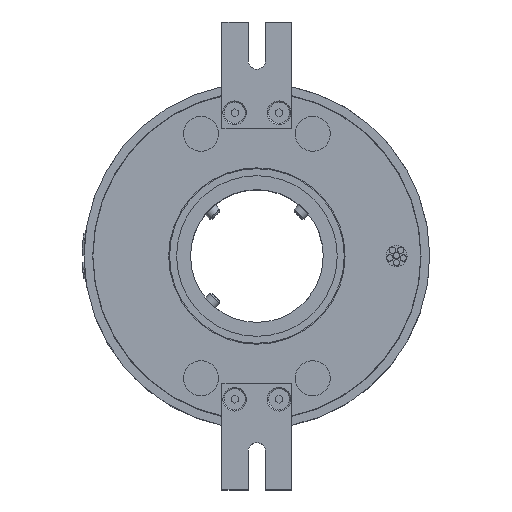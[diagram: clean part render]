
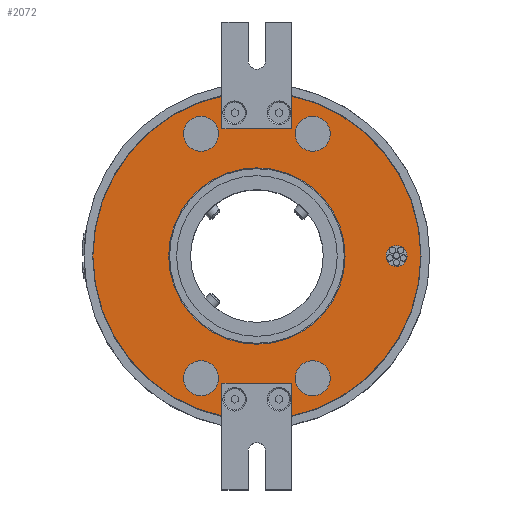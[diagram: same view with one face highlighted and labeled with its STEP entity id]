
A CAD part, top view. The second image highlights one B-rep face of the part: STEP entity #2072.
In plain terms, the highlighted planar face has unit normal (0, 0, 1).
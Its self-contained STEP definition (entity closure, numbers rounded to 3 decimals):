
#276=FACE_BOUND('',#5155,.T.);
#277=FACE_BOUND('',#5156,.T.);
#278=FACE_BOUND('',#5157,.T.);
#279=FACE_BOUND('',#5158,.T.);
#280=FACE_BOUND('',#5159,.T.);
#281=FACE_BOUND('',#5160,.T.);
#282=FACE_BOUND('',#5161,.T.);
#545=CIRCLE('',#16995,46.95);
#546=CIRCLE('',#16996,46.95);
#548=CIRCLE('',#16999,25.25);
#550=CIRCLE('',#17002,5.);
#552=CIRCLE('',#17005,5.);
#554=CIRCLE('',#17008,5.);
#556=CIRCLE('',#17011,5.);
#558=CIRCLE('',#17014,3.);
#986=PLANE('',#17016);
#1216=LINE('',#31586,#3290);
#1220=LINE('',#31594,#3294);
#1224=LINE('',#31601,#3298);
#1278=LINE('',#31736,#3352);
#1282=LINE('',#31744,#3356);
#1286=LINE('',#31751,#3360);
#2072=ADVANCED_FACE('',(#276,#277,#278,#279,#280,#281,#282),#986,.T.);
#3290=VECTOR('',#18515,1.);
#3294=VECTOR('',#18521,1.);
#3298=VECTOR('',#18527,1.);
#3352=VECTOR('',#18657,1.);
#3356=VECTOR('',#18663,1.);
#3360=VECTOR('',#18669,1.);
#5155=EDGE_LOOP('',(#8637));
#5156=EDGE_LOOP('',(#8638));
#5157=EDGE_LOOP('',(#8639));
#5158=EDGE_LOOP('',(#8640));
#5159=EDGE_LOOP('',(#8641));
#5160=EDGE_LOOP('',(#8642));
#5161=EDGE_LOOP('',(#8643,#8644,#8645,#8646,#8647,#8648,#8649,#8650));
#8637=ORIENTED_EDGE('',*,*,#13771,.F.);
#8638=ORIENTED_EDGE('',*,*,#13769,.T.);
#8639=ORIENTED_EDGE('',*,*,#13767,.T.);
#8640=ORIENTED_EDGE('',*,*,#13765,.T.);
#8641=ORIENTED_EDGE('',*,*,#13763,.T.);
#8642=ORIENTED_EDGE('',*,*,#13761,.F.);
#8643=ORIENTED_EDGE('',*,*,#13618,.F.);
#8644=ORIENTED_EDGE('',*,*,#13758,.F.);
#8645=ORIENTED_EDGE('',*,*,#13681,.F.);
#8646=ORIENTED_EDGE('',*,*,#13685,.F.);
#8647=ORIENTED_EDGE('',*,*,#13689,.F.);
#8648=ORIENTED_EDGE('',*,*,#13759,.F.);
#8649=ORIENTED_EDGE('',*,*,#13610,.F.);
#8650=ORIENTED_EDGE('',*,*,#13614,.F.);
#11429=VERTEX_POINT('',#31585);
#11430=VERTEX_POINT('',#31587);
#11432=VERTEX_POINT('',#31593);
#11434=VERTEX_POINT('',#31600);
#11477=VERTEX_POINT('',#31735);
#11478=VERTEX_POINT('',#31737);
#11480=VERTEX_POINT('',#31743);
#11482=VERTEX_POINT('',#31750);
#11531=VERTEX_POINT('',#31967);
#11533=VERTEX_POINT('',#31972);
#11535=VERTEX_POINT('',#31977);
#11537=VERTEX_POINT('',#31982);
#11539=VERTEX_POINT('',#31987);
#11541=VERTEX_POINT('',#31992);
#13610=EDGE_CURVE('',#11429,#11430,#1216,.T.);
#13614=EDGE_CURVE('',#11432,#11429,#1220,.T.);
#13618=EDGE_CURVE('',#11434,#11432,#1224,.T.);
#13681=EDGE_CURVE('',#11477,#11478,#1278,.T.);
#13685=EDGE_CURVE('',#11480,#11477,#1282,.T.);
#13689=EDGE_CURVE('',#11482,#11480,#1286,.T.);
#13758=EDGE_CURVE('',#11478,#11434,#545,.T.);
#13759=EDGE_CURVE('',#11430,#11482,#546,.T.);
#13761=EDGE_CURVE('',#11531,#11531,#548,.T.);
#13763=EDGE_CURVE('',#11533,#11533,#550,.T.);
#13765=EDGE_CURVE('',#11535,#11535,#552,.T.);
#13767=EDGE_CURVE('',#11537,#11537,#554,.T.);
#13769=EDGE_CURVE('',#11539,#11539,#556,.T.);
#13771=EDGE_CURVE('',#11541,#11541,#558,.T.);
#16995=AXIS2_PLACEMENT_3D('',#31961,#18832,#18833);
#16996=AXIS2_PLACEMENT_3D('',#31962,#18834,#18835);
#16999=AXIS2_PLACEMENT_3D('',#31966,#18840,#18841);
#17002=AXIS2_PLACEMENT_3D('',#31971,#18846,#18847);
#17005=AXIS2_PLACEMENT_3D('',#31976,#18852,#18853);
#17008=AXIS2_PLACEMENT_3D('',#31981,#18858,#18859);
#17011=AXIS2_PLACEMENT_3D('',#31986,#18864,#18865);
#17014=AXIS2_PLACEMENT_3D('',#31991,#18870,#18871);
#17016=AXIS2_PLACEMENT_3D('',#31994,#18874,#18875);
#18515=DIRECTION('',(0.,1.,0.));
#18521=DIRECTION('',(1.,0.,0.));
#18527=DIRECTION('',(0.,-1.,0.));
#18657=DIRECTION('',(0.,-1.,0.));
#18663=DIRECTION('',(-1.,0.,0.));
#18669=DIRECTION('',(0.,1.,0.));
#18832=DIRECTION('',(0.,0.,-1.));
#18833=DIRECTION('',(1.,0.,0.));
#18834=DIRECTION('',(0.,0.,-1.));
#18835=DIRECTION('',(1.,0.,0.));
#18840=DIRECTION('',(0.,0.,1.));
#18841=DIRECTION('',(1.,0.,0.));
#18846=DIRECTION('',(0.,0.,-1.));
#18847=DIRECTION('',(1.,0.,0.));
#18852=DIRECTION('',(0.,0.,-1.));
#18853=DIRECTION('',(-1.,0.,0.));
#18858=DIRECTION('',(0.,0.,-1.));
#18859=DIRECTION('',(1.,0.,0.));
#18864=DIRECTION('',(0.,0.,-1.));
#18865=DIRECTION('',(-1.,0.,0.));
#18870=DIRECTION('',(0.,0.,1.));
#18871=DIRECTION('',(0.866,-0.5,0.));
#18874=DIRECTION('',(0.,0.,1.));
#18875=DIRECTION('',(1.,0.,0.));
#31585=CARTESIAN_POINT('',(10.,36.5,57.5));
#31586=CARTESIAN_POINT('',(10.,51.75,57.5));
#31587=CARTESIAN_POINT('',(10.,45.873,57.5));
#31593=CARTESIAN_POINT('',(-10.,36.5,57.5));
#31594=CARTESIAN_POINT('',(0.,36.5,57.5));
#31600=CARTESIAN_POINT('',(-10.,45.873,57.5));
#31601=CARTESIAN_POINT('',(-10.,51.75,57.5));
#31735=CARTESIAN_POINT('',(-10.,-36.5,57.5));
#31736=CARTESIAN_POINT('',(-10.,-51.75,57.5));
#31737=CARTESIAN_POINT('',(-10.,-45.873,57.5));
#31743=CARTESIAN_POINT('',(10.,-36.5,57.5));
#31744=CARTESIAN_POINT('',(0.,-36.5,57.5));
#31750=CARTESIAN_POINT('',(10.,-45.873,57.5));
#31751=CARTESIAN_POINT('',(10.,-51.75,57.5));
#31961=CARTESIAN_POINT('',(0.,0.,57.5));
#31962=CARTESIAN_POINT('',(0.,0.,57.5));
#31966=CARTESIAN_POINT('',(0.,0.,57.5));
#31967=CARTESIAN_POINT('',(25.25,0.,57.5));
#31971=CARTESIAN_POINT('',(16.,35.,57.5));
#31972=CARTESIAN_POINT('',(21.,35.,57.5));
#31976=CARTESIAN_POINT('',(-16.,-35.,57.5));
#31977=CARTESIAN_POINT('',(-21.,-35.,57.5));
#31981=CARTESIAN_POINT('',(-16.,35.,57.5));
#31982=CARTESIAN_POINT('',(-11.,35.,57.5));
#31986=CARTESIAN_POINT('',(16.,-35.,57.5));
#31987=CARTESIAN_POINT('',(11.,-35.,57.5));
#31991=CARTESIAN_POINT('',(40.,0.,57.5));
#31992=CARTESIAN_POINT('',(42.598,-1.5,57.5));
#31994=CARTESIAN_POINT('',(0.,0.,57.5));
